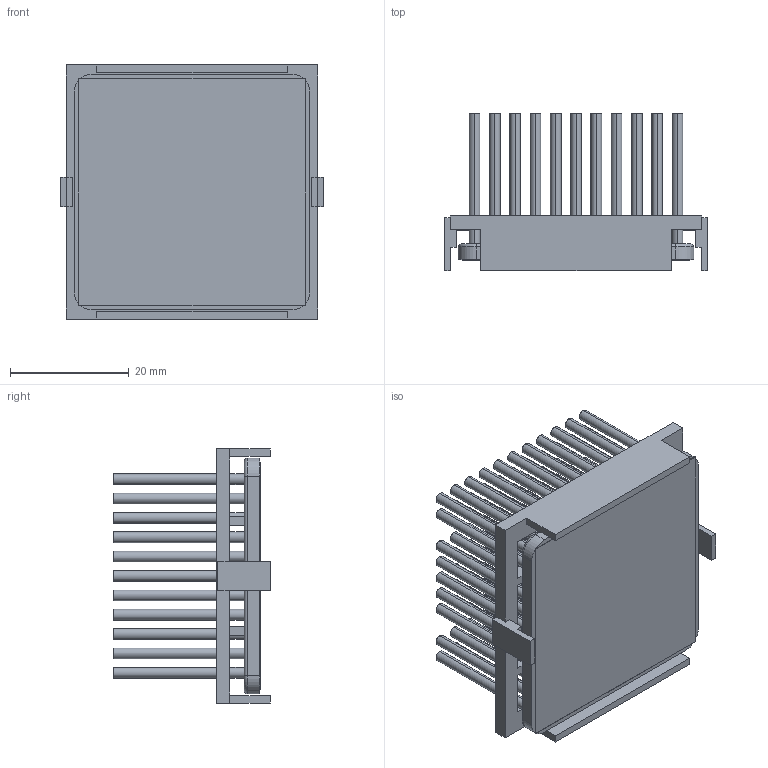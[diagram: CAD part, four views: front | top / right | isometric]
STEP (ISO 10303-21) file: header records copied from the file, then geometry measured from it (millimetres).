
FILE_DESCRIPTION (( 'STEP AP214' ), '1' );
FILE_NAME ('INM40002-25PCU-2.6BU.STEP', '2023-02-27T17:58:33', ( '' ), ( '' ), 'SwSTEP 2.0', 'SolidWorks 2020', '' );
FILE_SCHEMA (( 'AUTOMOTIVE_DESIGN' ));
Length unit declared in the file: inch
Products named in the file (1): INM40002-25PCU-2.6BU
Bounding box: 44.2 x 26.5 x 42.7 mm (x, y, z)
Volume: 12558.6 mm3; surface area: 23596.8 mm2
Topology: 3 solids, 3 shells, 421 faces, 898 edges, 596 vertices
Faces by surface type: cylinder 234, plane 183, torus 4
Entity records: 17099 total; most frequent: DIRECTION 2214, CARTESIAN_POINT 1916, ORIENTED_EDGE 1796, EDGE_CURVE 898, AXIS2_PLACEMENT_3D 894, VERTEX_POINT 596, EDGE_LOOP 536, CIRCLE 472
